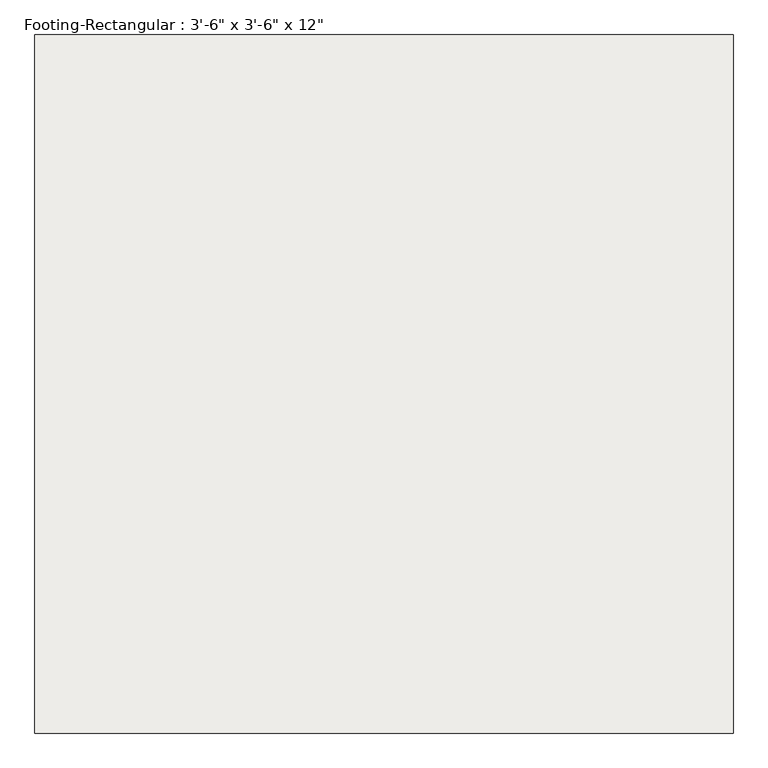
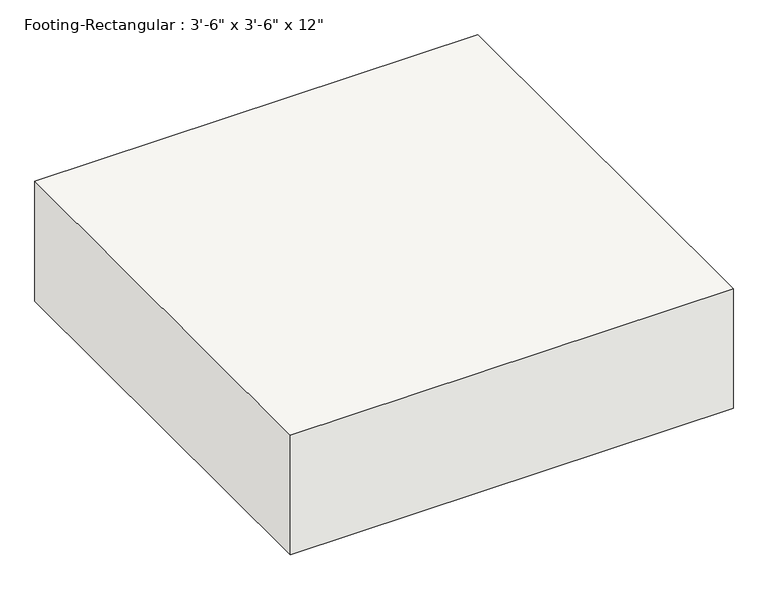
"""IFC4 building model written with IfcOpenShell, lengths in millimetres: slab geometry."""

from ifc_helpers import new_model, si_unit, frame, origin, place, context, project, spatial, polyline, outline, extrude, source, transform, mapped, element, save


def slab_3b9d1f00(model_context):
    return source(origin(), model_context, "Body", "SweptSolid", [
        extrude(outline(polyline([(533.4, 533.4), (533.4, -533.4), (-533.4, -533.4), (-533.4, 533.4), (533.4, 533.4)])), frame((0.0, 0.0, -304.8), z_axis=(0.0, 0.0, 1.0), x_axis=(1.0, 0.0, 0.0)), (0.0, 0.0, 1.0), 304.8),
    ])


if __name__ == "__main__":
    model = new_model("IFC4")
    model_context = context("Model", 3, world=origin())
    ifc_project = project(units=[si_unit("LENGTHUNIT", "METRE", prefix="MILLI")], contexts=[model_context])
    site = spatial("IfcSite", under=ifc_project)
    building = spatial("IfcBuilding", under=site)
    placement = place(None, origin())
    slab_shape = slab_3b9d1f00(model_context)
    element("IfcSlab", 1, ObjectType="Footing-Rectangular : 3'-6\" x 3'-6\" x 12\"", at=placement, inside=building, context=model_context, shape_type="MappedRepresentation", body=[
        mapped(slab_shape, transform((0.0, 0.0, 0.0), x_axis=(1.0, 0.0, 0.0), y_axis=(0.0, 1.0, 0.0), z_axis=(0.0, 0.0, 1.0))),
    ])
    save(model, "model.ifc")
